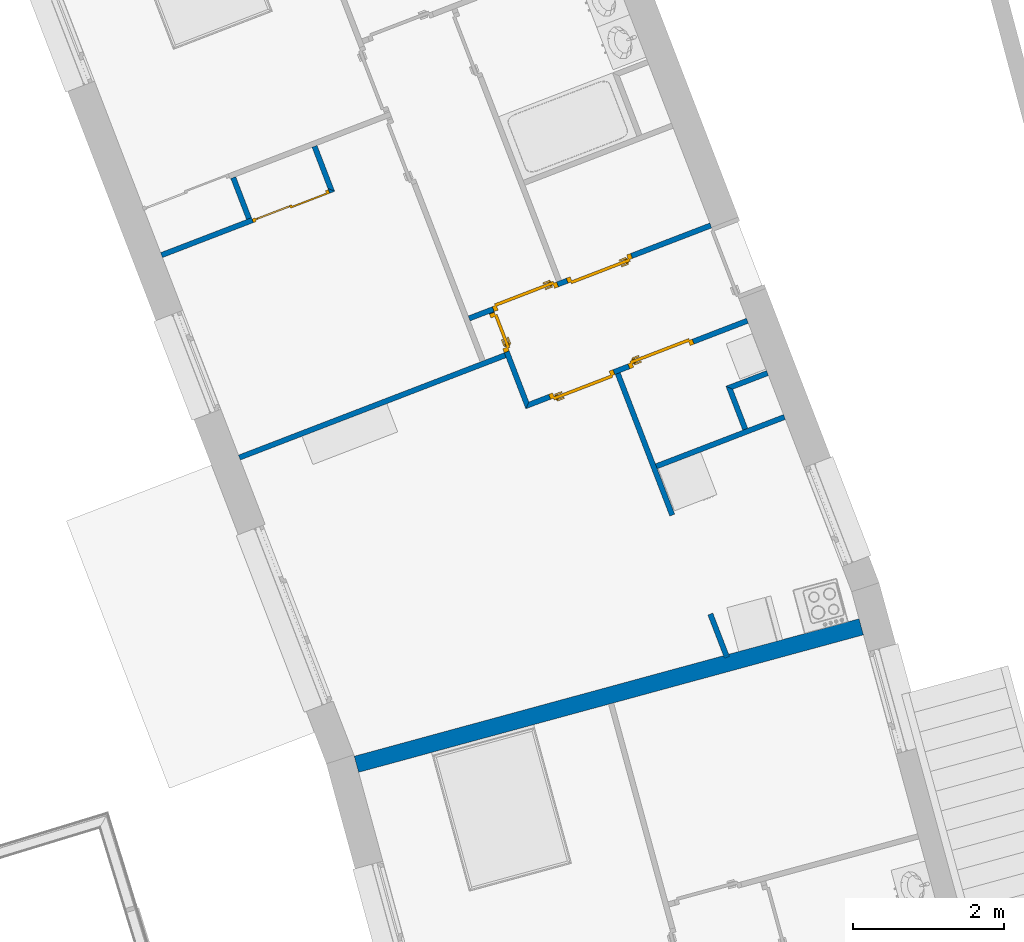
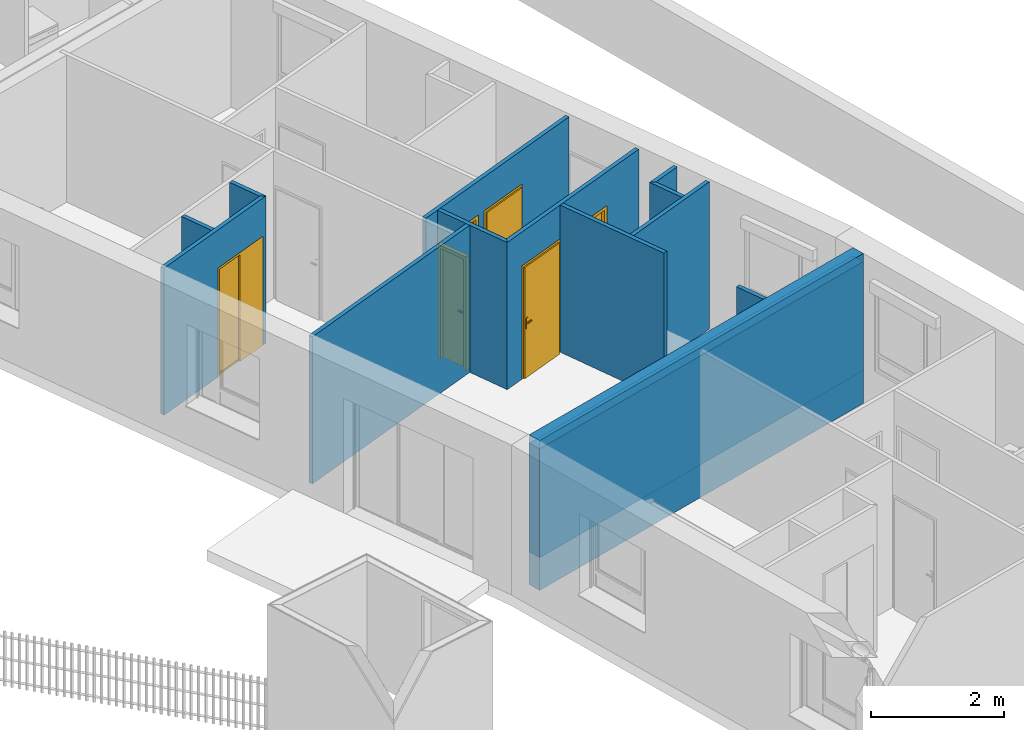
# One storey, part 76 of 195: 14 walls, 6 doors, 6 openings.
"""IFC2X3 building model written with IfcOpenShell, lengths in metres."""

from ifc_helpers import new_model, entity, si_unit, converted_unit, derived_unit, money_unit, direction, frame, origin_with_axes, origin_2d_with_axis, place, context, subcontext, project, spatial, polyline, rectangle, outline, extrude, open_shell, faceted_brep, surface_model, source, transform, mapped, material, layer, layer_set, layer_usage, type_object, element, fill, save


model = new_model("IFC2X3")

# Units and contexts
model_context = context("Model", 3, precision=1e-05, world=origin_with_axes(), true_north=direction((0.0, 1.0)))
body_context = subcontext(model_context, "Body", "Model", "MODEL_VIEW")
ifc_project = project(units=[si_unit("LENGTHUNIT", "METRE"), si_unit("AREAUNIT", "SQUARE_METRE"), si_unit("VOLUMEUNIT", "CUBIC_METRE"), converted_unit("PLANEANGLEUNIT", "DEGREE", entity("IfcPlaneAngleMeasure", 0.0174532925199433), si_unit("PLANEANGLEUNIT", "RADIAN"), dimensions=[0, 0, 0, 0, 0, 0, 0]), money_unit("CHF"), converted_unit("TIMEUNIT", "Year", entity("IfcTimeMeasure", 31557600.0), si_unit("TIMEUNIT", "SECOND"), dimensions=[0, 0, 1, 0, 0, 0, 0]), si_unit("MASSUNIT", "GRAM", prefix="KILO"), si_unit("THERMODYNAMICTEMPERATUREUNIT", "DEGREE_CELSIUS"), si_unit("LUMINOUSINTENSITYUNIT", "LUMEN"), si_unit("ENERGYUNIT", "JOULE", prefix="MEGA"), derived_unit("THERMALCONDUCTANCEUNIT", [(si_unit("POWERUNIT", "WATT"), 1), (si_unit("LENGTHUNIT", "METRE"), -1), (si_unit("THERMODYNAMICTEMPERATUREUNIT", "KELVIN"), -1)]), derived_unit("SPECIFICHEATCAPACITYUNIT", [(si_unit("ENERGYUNIT", "JOULE"), 1), (si_unit("MASSUNIT", "GRAM", prefix="KILO"), -1), (si_unit("THERMODYNAMICTEMPERATUREUNIT", "KELVIN"), -1)]), derived_unit("MASSDENSITYUNIT", [(si_unit("MASSUNIT", "GRAM", prefix="KILO"), 1), (si_unit("VOLUMEUNIT", "CUBIC_METRE"), -1)])], contexts=[model_context])

# Site, building, storey
site_placement = place(None, origin_with_axes())
site = spatial("IfcSite", under=ifc_project, at=site_placement, Name="Site", CompositionType="ELEMENT")
building_placement = place(site_placement, origin_with_axes())
building = spatial("IfcBuilding", under=site, at=building_placement, Name="Bâtiment", CompositionType="ELEMENT")
storey_placement = place(building_placement, origin_with_axes())
storey = spatial("IfcBuildingStorey", under=building, at=storey_placement, Name="rdc", CompositionType="ELEMENT", Elevation=0.0)

# Walls
ifc_material_1 = material(Name="Hachure solide 268963992")
ifc_layer_1 = layer(ifc_material_1, 0.07, ventilated="UNKNOWN")
ifc_layer_set_1 = layer_set([ifc_layer_1], Name="Cloison 70 0826278243")
ifc_layer_usage_1 = layer_usage(ifc_layer_set_1, "AXIS2", "POSITIVE", 0.0)
wall_type_1 = type_object("IfcWallType", Name="Cloison 70 0826278243 70", PredefinedType="NOTDEFINED")
wall_1_placement = place(storey_placement, frame((9588.726332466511, -1041.653551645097, 57.7), z_axis=(0.0, 0.0, 1.0), x_axis=(-0.9332788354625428, -0.3591526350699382, 0.0)))
element("IfcWallStandardCase", 1, at=wall_1_placement, inside=storey, type_object=wall_type_1, material=ifc_layer_usage_1, Name="Mur-149", context=body_context, shape_type="SweptSolid", body=[
    extrude(outline(polyline([(-3.088871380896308e-10, 0.0), (3.76118609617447, 0.0), (3.761186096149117, 0.06999999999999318), (-3.24803295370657e-10, 0.06999999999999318), (-3.088871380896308e-10, 0.0)])), origin_with_axes(), (0.0, 0.0, 1.0), 2.7),
])
ifc_layer_usage_2 = layer_usage(ifc_layer_set_1, "AXIS2", "NEGATIVE", 0.0)
wall_2_placement = place(storey_placement, frame((9585.347849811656, -1039.959595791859, 57.7), z_axis=(0.0, 0.0, 1.0), x_axis=(-0.3591526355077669, 0.9332788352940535, 0.0)))
element("IfcWallStandardCase", 2, at=wall_2_placement, inside=storey, type_object=wall_type_1, material=ifc_layer_usage_2, Name="Mur-149", context=body_context, shape_type="SweptSolid", body=[
    extrude(outline(polyline([(0.07000000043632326, -0.07000000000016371), (0.6499928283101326, -0.07000000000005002), (0.6499928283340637, 0.0), (0.07000000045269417, 0.0), (0.07000000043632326, -0.07000000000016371)])), origin_with_axes(), (0.0, 0.0, 1.0), 2.7),
])
ifc_layer_usage_3 = layer_usage(ifc_layer_set_1, "AXIS2", "NEGATIVE", 0.0)
wall_3_placement = place(storey_placement, frame((9586.421467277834, -1039.546436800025, 57.7), z_axis=(0.0, 0.0, 1.0), x_axis=(-0.3591526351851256, 0.9332788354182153, 0.0)))
element("IfcWallStandardCase", 3, at=wall_3_placement, inside=storey, type_object=wall_type_1, material=ifc_layer_usage_3, Name="Mur-149", context=body_context, shape_type="SweptSolid", body=[
    extrude(outline(polyline([(0.0, -0.07000000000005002), (0.6499928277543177, -0.07000000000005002), (0.6499928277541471, 0.0), (0.07000000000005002, 0.0), (0.0, -0.07000000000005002)])), origin_with_axes(), (0.0, 0.0, 1.0), 2.7),
])

# Wall, opening, door
ifc_layer_usage_4 = layer_usage(ifc_layer_set_1, "AXIS2", "NEGATIVE", 0.0)
wall_4_placement = place(storey_placement, frame((9586.421467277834, -1039.546436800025, 57.7), z_axis=(0.0, 0.0, 1.0), x_axis=(-0.9332788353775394, -0.3591526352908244, 0.0)))
wall_4 = element("IfcWallStandardCase", 4, at=wall_4_placement, inside=storey, type_object=wall_type_1, material=ifc_layer_usage_4, Name="Mur-149", context=body_context, shape_type="SweptSolid", body=[
    extrude(outline(polyline([(0.0, -0.07000000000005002), (2.366880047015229, -0.06999999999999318), (2.366880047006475, 0.0), (-0.06999999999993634, 0.0), (0.0, -0.07000000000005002)])), origin_with_axes(), (0.0, 0.0, 1.0), 2.7),
])
opening_1_placement = place(wall_4_placement, frame((0.5401857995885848, 0.0, 0.0), z_axis=(0.0, 0.0, 1.0), x_axis=(1.0, 0.0, 0.0)))
opening_1 = element("IfcOpeningElement", 5, at=opening_1_placement, cuts=wall_4, Name="Por-354", context=body_context, shape_type="SweptSolid", body=[
    extrude(rectangle(XDim=1.080371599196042, YDim=2.0, at=origin_2d_with_axis()), frame((0.0, 0.0, 1.0), z_axis=(0.0, -1.0, 0.0), x_axis=(1.0, 0.0, 0.0)), (0.0, 0.0, -1.0), 0.07),
    extrude(rectangle(XDim=1.080371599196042, YDim=2.0, at=origin_2d_with_axis()), frame((0.0, 0.0, 1.0), z_axis=(0.0, 1.0, 0.0), x_axis=(1.0, 0.0, 0.0)), (0.0, 0.0, -1.0), 0.07),
])
door_style_1 = type_object("IfcDoorStyle", ConstructionType="NOTDEFINED", OperationType="NOTDEFINED", ParameterTakesPrecedence=False, Sizeable=False)
shared_shape_1 = source(origin_with_axes(), body_context, "Body", "SurfaceModel", [
    faceted_brep([(-0.5401857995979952, 0.0, 0.0), (-0.5401857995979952, 0.0, 2.0), (0.5401857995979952, 0.0, 2.0), (0.5401857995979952, 0.0, 0.0), (0.5001857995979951, 0.0, 0.0), (0.5001857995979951, 0.0, 1.96), (-0.5001857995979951, 0.0, 1.96), (-0.5001857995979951, 0.0, 0.0), (-0.5401857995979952, -0.05, 0.0), (-0.5401857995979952, -0.05, 2.0), (0.5401857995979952, -0.05, 2.0), (0.5401857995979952, -0.05, 0.0), (0.5001857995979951, -0.05, 0.0), (0.5001857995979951, -0.04, 0.0), (0.5001857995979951, -0.04, 1.96), (-0.5001857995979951, -0.04, 1.96), (-0.5001857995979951, -0.04, 0.0), (-0.5001857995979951, -0.05, 0.0), (-0.5001857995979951, -0.05, 1.96), (0.5001857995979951, -0.05, 1.96)], [[[0, 1, 2, 3, 4, 5, 6, 7]], [[8, 9, 1, 0]], [[9, 10, 2, 1]], [[10, 11, 3, 2]], [[3, 11, 12, 13, 4]], [[5, 4, 13, 14]], [[6, 5, 14, 15]], [[7, 6, 15, 16]], [[0, 7, 16, 17, 8]], [[17, 18, 19, 12, 11, 10, 9, 8]], [[14, 13, 12, 19]], [[15, 14, 19, 18]], [[16, 15, 18, 17]]]),
    faceted_brep([(0.5001857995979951, -0.02, 0.0), (0.5001857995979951, -0.04, 0.0), (-0.01500000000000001, -0.04, 0.0), (-0.01500000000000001, -0.02, 0.0), (0.5001857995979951, -0.02, 1.96), (0.5001857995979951, -0.04, 1.96), (-0.01500000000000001, -0.04, 1.96), (0.4701857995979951, -0.04, 0.03), (0.01500000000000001, -0.04, 0.03), (0.01500000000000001, -0.04, 1.93), (0.4701857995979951, -0.04, 1.93), (-0.01500000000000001, -0.02, 1.96), (0.4701857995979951, -0.02, 0.03), (0.4701857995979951, -0.02, 1.93), (0.01500000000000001, -0.02, 1.93), (0.01500000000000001, -0.02, 0.03)], [[[0, 1, 2, 3]], [[4, 5, 1, 0]], [[1, 5, 6, 2], [7, 8, 9, 10]], [[3, 2, 6, 11]], [[0, 3, 11, 4], [12, 13, 14, 15]], [[11, 6, 5, 4]], [[15, 8, 7, 12]], [[14, 9, 8, 15]], [[13, 10, 9, 14]], [[12, 7, 10, 13]]]),
    surface_model("IfcShellBasedSurfaceModel", [(0.4701857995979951, -0.03, 0.03), (0.4701857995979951, -0.03, 1.93), (0.01499999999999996, -0.03, 1.93), (0.01499999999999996, -0.03, 0.03)], [open_shell([[[0, 1, 2, 3]]])]),
    faceted_brep([(0.01500000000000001, 0.0, 0.0), (0.01500000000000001, -0.02, 0.0), (-0.5001857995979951, -0.02, 0.0), (-0.5001857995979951, 0.0, 0.0), (0.01500000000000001, 0.0, 1.96), (0.01500000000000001, -0.02, 1.96), (-0.5001857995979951, -0.02, 1.96), (-0.5001857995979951, 0.0, 1.96)], [[[0, 1, 2, 3]], [[4, 5, 1, 0]], [[1, 5, 6, 2]], [[3, 2, 6, 7]], [[0, 3, 7, 4]], [[7, 6, 5, 4]]]),
])
door_1_placement = place(opening_1_placement, frame((-0.5401857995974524, 0.0, 0.0), z_axis=(0.0, 0.0, 1.0), x_axis=(1.0, 0.0, 0.0)))
door_1 = element("IfcDoor", 6, at=door_1_placement, inside=storey, type_object=door_style_1, Name="Por-354", OverallHeight=2.0, OverallWidth=1.08037, context=body_context, shape_type="MappedRepresentation", body=[
    mapped(shared_shape_1, transform((0.5401857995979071, 0.0, 0.0))),
])
fill(opening_1, door_1)

# Walls
ifc_layer_usage_5 = layer_usage(ifc_layer_set_1, "AXIS2", "NEGATIVE", 0.0)
wall_5_placement = place(storey_placement, frame((9591.876658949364, -1042.676088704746, 57.7), z_axis=(0.0, 0.0, 1.0), x_axis=(-0.3591526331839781, 0.9332788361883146, 0.0)))
element("IfcWallStandardCase", 7, at=wall_5_placement, inside=storey, type_object=wall_type_1, material=ifc_layer_usage_5, Name="Mur-149", context=body_context, shape_type="SweptSolid", body=[
    extrude(outline(polyline([(0.0, -0.07000000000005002), (0.5522261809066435, -0.07000000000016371), (0.6222241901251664, 0.0), (0.0, 0.0), (0.0, -0.07000000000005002)])), origin_with_axes(), (0.0, 0.0, 1.0), 2.7),
])
ifc_layer_usage_6 = layer_usage(ifc_layer_set_1, "AXIS2", "NEGATIVE", 0.0)
wall_6_placement = place(storey_placement, frame((9590.257939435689, -1041.914470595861, 57.7), z_axis=(0.0, 0.0, 1.0), x_axis=(0.3591526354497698, -0.9332788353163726, 0.0)))
element("IfcWallStandardCase", 8, at=wall_6_placement, inside=storey, type_object=wall_type_1, material=ifc_layer_usage_6, Name="Mur-149", context=body_context, shape_type="SweptSolid", body=[
    extrude(outline(polyline([(-9.5042196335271e-10, -0.07000000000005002), (2.003969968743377, -0.07000000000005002), (2.00396996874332, 0.0), (-9.37120603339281e-10, 0.0), (-9.5042196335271e-10, -0.07000000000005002)])), origin_with_axes(), (0.0, 0.0, 1.0), 2.7),
])

# Wall, openings, doors
ifc_layer_usage_7 = layer_usage(ifc_layer_set_1, "AXIS2", "NEGATIVE", 0.0)
wall_7_placement = place(storey_placement, frame((9591.82032224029, -1039.868313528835, 57.7), z_axis=(0.0, 0.0, 1.0), x_axis=(-0.9332788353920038, -0.3591526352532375, 0.0)))
wall_7 = element("IfcWallStandardCase", 9, at=wall_7_placement, inside=storey, type_object=wall_type_1, material=ifc_layer_usage_7, Name="Mur-149", context=body_context, shape_type="SweptSolid", body=[
    extrude(outline(polyline([(0.3799999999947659, -0.06999999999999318), (3.798731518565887, -0.07000000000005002), (3.798731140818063, 0.0), (0.3799999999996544, 0.0), (0.3799999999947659, -0.06999999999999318)])), origin_with_axes(), (0.0, 0.0, 1.0), 2.7),
])
opening_2_placement = place(wall_7_placement, frame((3.002364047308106, 0.0, 0.0), z_axis=(0.0, 0.0, 1.0), x_axis=(1.0, 0.0, 0.0)))
opening_2 = element("IfcOpeningElement", 10, at=opening_2_placement, cuts=wall_7, Name="Por-299", context=body_context, shape_type="SweptSolid", body=[
    extrude(rectangle(XDim=0.9099999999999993, YDim=2.079999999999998, at=origin_2d_with_axis()), frame((0.0, 0.07000000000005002, 1.039999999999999), z_axis=(0.0, 1.0, 0.0), x_axis=(1.0, 0.0, 0.0)), (0.0, 0.0, -1.0), 0.14),
])
opening_3_placement = place(wall_7_placement, frame((1.956216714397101, 0.0, 0.0), z_axis=(0.0, 0.0, 1.0), x_axis=(1.0, 0.0, 0.0)))
opening_3 = element("IfcOpeningElement", 11, at=opening_3_placement, cuts=wall_7, Name="Por-299", context=body_context, shape_type="SweptSolid", body=[
    extrude(rectangle(XDim=0.9099999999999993, YDim=2.079999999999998, at=origin_2d_with_axis()), frame((0.0, -0.07000000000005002, 1.039999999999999), z_axis=(0.0, 1.0, 0.0), x_axis=(1.0, 0.0, 0.0)), (0.0, 0.0, 1.0), 0.14),
])
door_style_2 = type_object("IfcDoorStyle", Name="Porte_1v", ConstructionType="NOTDEFINED", OperationType="NOTDEFINED", ParameterTakesPrecedence=False, Sizeable=False)
shared_shape_2 = source(origin_with_axes(), body_context, "Body", "Brep", [
    faceted_brep([(0.455, 0.0, 0.0), (0.415, 0.0, 0.0), (0.415, 0.0, 2.04), (-0.415, 0.0, 2.04), (-0.415, 0.0, 0.0), (-0.455, 0.0, 0.0), (-0.455, 0.0, 2.08), (0.455, 0.0, 2.08), (0.455, -0.07, 0.0), (0.4, -0.07, 0.0), (0.4, -0.015, 0.0), (0.415, -0.015, 0.0), (0.415, -0.015, 2.04), (-0.415, -0.015, 2.04), (-0.415, -0.015, 0.0), (-0.4, -0.015, 0.0), (-0.4, -0.07, 0.0), (-0.455, -0.07, 0.0), (-0.455, -0.07, 2.08), (0.455, -0.07, 2.08), (-0.4, -0.07, 2.025), (0.4, -0.07, 2.025), (0.4, -0.015, 2.025), (-0.4, -0.015, 2.025)], [[[0, 1, 2, 3, 4, 5, 6, 7]], [[0, 8, 9, 10, 11, 1]], [[1, 11, 12, 2]], [[2, 12, 13, 3]], [[3, 13, 14, 4]], [[5, 4, 14, 15, 16, 17]], [[18, 6, 5, 17]], [[19, 7, 6, 18]], [[8, 0, 7, 19]], [[9, 8, 19, 18, 17, 16, 20, 21]], [[10, 9, 21, 22]], [[11, 10, 22, 23, 15, 14, 13, 12]], [[23, 20, 16, 15]], [[22, 21, 20, 23]]]),
    faceted_brep([(-0.35, -0.015, 0.9), (-0.39, -0.015, 0.9), (-0.39, -0.015, 1.1), (-0.35, -0.015, 1.1), (-0.35, -0.025, 0.9), (-0.39, -0.025, 0.9), (-0.39, -0.025, 1.1), (-0.35, -0.025, 1.1)], [[[0, 1, 2, 3]], [[1, 0, 4, 5]], [[2, 1, 5, 6]], [[3, 2, 6, 7]], [[0, 3, 7, 4]], [[5, 4, 7, 6]]]),
    faceted_brep([(-0.28, -0.025, 1.0), (-0.38, -0.025, 1.0), (-0.38, -0.025, 1.02), (-0.28, -0.025, 1.02), (-0.28, -0.045, 1.0), (-0.38, -0.045, 1.0), (-0.38, -0.045, 1.02), (-0.28, -0.045, 1.02)], [[[0, 1, 2, 3]], [[1, 0, 4, 5]], [[2, 1, 5, 6]], [[3, 2, 6, 7]], [[0, 3, 7, 4]], [[5, 4, 7, 6]]]),
    faceted_brep([(-0.35, 0.035, 0.9), (-0.39, 0.035, 0.9), (-0.39, 0.035, 1.1), (-0.35, 0.035, 1.1), (-0.35, 0.025, 0.9), (-0.39, 0.025, 0.9), (-0.39, 0.025, 1.1), (-0.35, 0.025, 1.1)], [[[0, 1, 2, 3]], [[1, 0, 4, 5]], [[2, 1, 5, 6]], [[3, 2, 6, 7]], [[0, 3, 7, 4]], [[5, 4, 7, 6]]]),
    faceted_brep([(-0.28, 0.05500000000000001, 1.0), (-0.38, 0.05500000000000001, 1.0), (-0.38, 0.05500000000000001, 1.02), (-0.28, 0.05500000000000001, 1.02), (-0.28, 0.035, 1.0), (-0.38, 0.035, 1.0), (-0.38, 0.035, 1.02), (-0.28, 0.035, 1.02)], [[[0, 1, 2, 3]], [[1, 0, 4, 5]], [[2, 1, 5, 6]], [[3, 2, 6, 7]], [[0, 3, 7, 4]], [[5, 4, 7, 6]]]),
    faceted_brep([(-0.415, 0.025, 0.0), (0.415, 0.025, 0.0), (0.415, -0.015, 0.0), (-0.415, -0.015, 0.0), (-0.415, 0.025, 2.04), (0.415, 0.025, 2.04), (0.415, -0.015, 2.04), (-0.415, -0.015, 2.04)], [[[0, 1, 2, 3]], [[0, 4, 5, 1]], [[1, 5, 6, 2]], [[3, 2, 6, 7]], [[4, 0, 3, 7]], [[5, 4, 7, 6]]]),
])
door_2_placement = place(opening_3_placement, frame((-0.4150000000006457, 0.0, 0.0), z_axis=(0.0, 0.0, 1.0), x_axis=(1.0, 0.0, 0.0)))
door_2 = element("IfcDoor", 12, at=door_2_placement, inside=storey, type_object=door_style_2, Name="Por-299", OverallHeight=2.04, OverallWidth=0.83, context=body_context, shape_type="MappedRepresentation", body=[
    mapped(shared_shape_2, transform((0.4149999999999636, 0.0, 0.0))),
])
fill(opening_3, door_2)
shared_shape_3 = source(origin_with_axes(), body_context, "Body", "Brep", [
    faceted_brep([(-0.455, 0.0, 0.0), (-0.455, 0.0, 2.08), (0.455, 0.0, 2.08), (0.455, 0.0, 0.0), (0.415, 0.0, 0.0), (0.415, 0.0, 2.04), (-0.415, 0.0, 2.04), (-0.415, 0.0, 0.0), (-0.455, -0.07, 0.0), (-0.455, -0.07, 2.08), (0.455, -0.07, 2.08), (0.455, -0.07, 0.0), (0.4, -0.07, 0.0), (0.4, -0.015, 0.0), (0.415, -0.015, 0.0), (0.415, -0.015, 2.04), (-0.415, -0.015, 2.04), (-0.415, -0.015, 0.0), (-0.4, -0.015, 0.0), (-0.4, -0.07, 0.0), (-0.4, -0.07, 2.025), (0.4, -0.07, 2.025), (0.4, -0.015, 2.025), (-0.4, -0.015, 2.025)], [[[0, 1, 2, 3, 4, 5, 6, 7]], [[8, 9, 1, 0]], [[9, 10, 2, 1]], [[10, 11, 3, 2]], [[3, 11, 12, 13, 14, 4]], [[5, 4, 14, 15]], [[6, 5, 15, 16]], [[7, 6, 16, 17]], [[0, 7, 17, 18, 19, 8]], [[19, 20, 21, 12, 11, 10, 9, 8]], [[22, 13, 12, 21]], [[17, 16, 15, 14, 13, 22, 23, 18]], [[18, 23, 20, 19]], [[23, 22, 21, 20]]]),
    faceted_brep([(0.35, -0.015, 0.9), (0.35, -0.015, 1.1), (0.39, -0.015, 1.1), (0.39, -0.015, 0.9), (0.35, -0.025, 0.9), (0.35, -0.025, 1.1), (0.39, -0.025, 1.1), (0.39, -0.025, 0.9)], [[[0, 1, 2, 3]], [[0, 4, 5, 1]], [[1, 5, 6, 2]], [[2, 6, 7, 3]], [[3, 7, 4, 0]], [[7, 6, 5, 4]]]),
    faceted_brep([(0.28, -0.025, 1.0), (0.28, -0.025, 1.02), (0.38, -0.025, 1.02), (0.38, -0.025, 1.0), (0.28, -0.045, 1.0), (0.28, -0.045, 1.02), (0.38, -0.045, 1.02), (0.38, -0.045, 1.0)], [[[0, 1, 2, 3]], [[0, 4, 5, 1]], [[1, 5, 6, 2]], [[2, 6, 7, 3]], [[3, 7, 4, 0]], [[7, 6, 5, 4]]]),
    faceted_brep([(0.35, 0.035, 0.9), (0.35, 0.035, 1.1), (0.39, 0.035, 1.1), (0.39, 0.035, 0.9), (0.35, 0.025, 0.9), (0.35, 0.025, 1.1), (0.39, 0.025, 1.1), (0.39, 0.025, 0.9)], [[[0, 1, 2, 3]], [[0, 4, 5, 1]], [[1, 5, 6, 2]], [[2, 6, 7, 3]], [[3, 7, 4, 0]], [[7, 6, 5, 4]]]),
    faceted_brep([(0.28, 0.05500000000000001, 1.0), (0.28, 0.05500000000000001, 1.02), (0.38, 0.05500000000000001, 1.02), (0.38, 0.05500000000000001, 1.0), (0.28, 0.035, 1.0), (0.28, 0.035, 1.02), (0.38, 0.035, 1.02), (0.38, 0.035, 1.0)], [[[0, 1, 2, 3]], [[0, 4, 5, 1]], [[1, 5, 6, 2]], [[2, 6, 7, 3]], [[3, 7, 4, 0]], [[7, 6, 5, 4]]]),
    faceted_brep([(0.415, 0.025, 0.0), (0.415, -0.015, 0.0), (-0.415, -0.015, 0.0), (-0.415, 0.025, 0.0), (0.415, 0.025, 2.04), (0.415, -0.015, 2.04), (-0.415, -0.015, 2.04), (-0.415, 0.025, 2.04)], [[[0, 1, 2, 3]], [[4, 5, 1, 0]], [[1, 5, 6, 2]], [[3, 2, 6, 7]], [[0, 3, 7, 4]], [[7, 6, 5, 4]]]),
])
door_3_placement = place(opening_2_placement, frame((0.4149999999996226, 0.0, 0.0), z_axis=(0.0, 0.0, 1.0), x_axis=(-1.0, 0.0, 0.0)))
door_3 = element("IfcDoor", 13, at=door_3_placement, inside=storey, type_object=door_style_2, Name="Por-299", OverallHeight=2.04, OverallWidth=0.83, context=body_context, shape_type="MappedRepresentation", body=[
    mapped(shared_shape_3, transform((0.4150000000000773, 0.06999999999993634, 0.0))),
])
fill(opening_2, door_3)

ifc_layer_usage_8 = layer_usage(ifc_layer_set_1, "AXIS2", "POSITIVE", 0.0)
wall_8_placement = place(storey_placement, frame((9589.01135269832, -1042.394193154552, 57.7), z_axis=(0.0, 0.0, 1.0), x_axis=(0.9332788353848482, 0.3591526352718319, 0.0)))
wall_8 = element("IfcWallStandardCase", 14, at=wall_8_placement, inside=storey, type_object=wall_type_1, material=ifc_layer_usage_8, Name="Mur-149", context=body_context, shape_type="SweptSolid", body=[
    extrude(outline(polyline([(2.247588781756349e-10, 0.0), (3.148728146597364, 0.0), (3.148728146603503, 0.06999999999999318), (0.07000000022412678, 0.07000000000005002), (2.247588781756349e-10, 0.0)])), origin_with_axes(), (0.0, 0.0, 1.0), 2.7),
])
opening_4_placement = place(wall_8_placement, frame((1.926126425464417, 0.0, 0.0), z_axis=(0.0, 0.0, 1.0), x_axis=(1.0, 0.0, 0.0)))
opening_4 = element("IfcOpeningElement", 15, at=opening_4_placement, cuts=wall_8, Name="Por-299", context=body_context, shape_type="SweptSolid", body=[
    extrude(rectangle(XDim=0.9099999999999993, YDim=2.079999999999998, at=origin_2d_with_axis()), frame((0.0, -0.07000000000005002, 1.039999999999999), z_axis=(0.0, 1.0, 0.0), x_axis=(1.0, 0.0, 0.0)), (0.0, 0.0, 1.0), 0.14),
])
opening_5_placement = place(wall_8_placement, frame((0.8050034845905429, 0.0, 0.0), z_axis=(0.0, 0.0, 1.0), x_axis=(1.0, 0.0, 0.0)))
opening_5 = element("IfcOpeningElement", 16, at=opening_5_placement, cuts=wall_8, Name="Por-299", context=body_context, shape_type="SweptSolid", body=[
    extrude(rectangle(XDim=0.9099999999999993, YDim=2.079999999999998, at=origin_2d_with_axis()), frame((0.0, 0.06999999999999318, 1.039999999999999), z_axis=(0.0, 1.0, 0.0), x_axis=(1.0, 0.0, 0.0)), (0.0, 0.0, -1.0), 0.14),
])
door_4_placement = place(opening_4_placement, frame((-0.4150000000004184, 0.0, 0.0), z_axis=(0.0, 0.0, 1.0), x_axis=(1.0, 0.0, 0.0)))
door_4 = element("IfcDoor", 17, at=door_4_placement, inside=storey, type_object=door_style_2, Name="Por-299", OverallHeight=2.04, OverallWidth=0.83, context=body_context, shape_type="MappedRepresentation", body=[
    mapped(shared_shape_2, transform((0.4149999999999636, 0.07000000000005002, 0.0))),
])
fill(opening_4, door_4)
door_5_placement = place(opening_5_placement, frame((0.4149999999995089, 0.0, 0.0), z_axis=(0.0, 0.0, 1.0), x_axis=(-1.0, 0.0, 0.0)))
door_5 = element("IfcDoor", 18, at=door_5_placement, inside=storey, type_object=door_style_2, Name="Por-299", OverallHeight=2.04, OverallWidth=0.83, context=body_context, shape_type="MappedRepresentation", body=[
    mapped(shared_shape_3, transform((0.4150000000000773, 0.0, 0.0))),
])
fill(opening_5, door_5)

# Wall
ifc_layer_usage_9 = layer_usage(ifc_layer_set_1, "AXIS2", "POSITIVE", 0.0)
wall_9_placement = place(storey_placement, frame((9590.747166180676, -1043.185754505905, 57.7), z_axis=(0.0, 0.0, 1.0), x_axis=(0.9332788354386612, 0.3591526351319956, 0.0)))
element("IfcWallStandardCase", 19, at=wall_9_placement, inside=storey, type_object=wall_type_1, material=ifc_layer_usage_9, Name="Mur-149", context=body_context, shape_type="SweptSolid", body=[
    extrude(outline(polyline([(0.0, 0.0), (1.813021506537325, 0.0), (1.813021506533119, 0.06999999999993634), (0.0, 0.06999999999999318), (0.0, 0.0)])), origin_with_axes(), (0.0, 0.0, 1.0), 2.7),
])

# Wall, opening, door
ifc_layer_usage_10 = layer_usage(ifc_layer_set_1, "AXIS2", "NEGATIVE", 0.0)
wall_10_placement = place(storey_placement, frame((9589.011352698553, -1042.394193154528, 57.7), z_axis=(0.0, 0.0, 1.0), x_axis=(-0.3591526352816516, 0.9332788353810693, 0.0)))
wall_10 = element("IfcWallStandardCase", 20, at=wall_10_placement, inside=storey, type_object=wall_type_1, material=ifc_layer_usage_10, Name="Mur-149", context=body_context, shape_type="SweptSolid", body=[
    extrude(outline(polyline([(0.07000000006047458, -0.06999999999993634), (1.348501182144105, -0.06999999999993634), (1.348501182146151, 0.0), (0.0, 0.0), (0.07000000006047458, -0.06999999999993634)])), origin_with_axes(), (0.0, 0.0, 1.0), 2.7),
])
opening_6_placement = place(wall_10_placement, frame((1.067283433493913, 0.0, 0.0), z_axis=(0.0, 0.0, 1.0), x_axis=(1.0, 0.0, 0.0)))
opening_6 = element("IfcOpeningElement", 21, at=opening_6_placement, cuts=wall_10, Name="Por-320", context=body_context, shape_type="SweptSolid", body=[
    extrude(rectangle(XDim=0.547405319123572, YDim=2.079999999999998, at=origin_2d_with_axis()), frame((-2.722629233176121e-09, 0.07000000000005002, 1.039999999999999), z_axis=(0.0, 1.0, 0.0), x_axis=(1.0, 0.0, 0.0)), (0.0, 0.0, -1.0), 0.14),
])
shared_shape_4 = source(origin_with_axes(), body_context, "Body", "Brep", [
    faceted_brep([(-0.2737026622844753, 0.0, 0.0), (-0.2737026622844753, 0.0, 2.08), (0.2737026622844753, 0.0, 2.08), (0.2737026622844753, 0.0, 0.0), (0.2337026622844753, 0.0, 0.0), (0.2337026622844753, 0.0, 2.04), (-0.2337026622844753, 0.0, 2.04), (-0.2337026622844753, 0.0, 0.0), (-0.2737026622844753, -0.07, 0.0), (-0.2737026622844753, -0.07, 2.08), (0.2737026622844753, -0.07, 2.08), (0.2737026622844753, -0.07, 0.0), (0.2187026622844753, -0.07, 0.0), (0.2187026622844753, -0.015, 0.0), (0.2337026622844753, -0.015, 0.0), (0.2337026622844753, -0.015, 2.04), (-0.2337026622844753, -0.015, 2.04), (-0.2337026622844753, -0.015, 0.0), (-0.2187026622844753, -0.015, 0.0), (-0.2187026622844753, -0.07, 0.0), (-0.2187026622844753, -0.07, 2.025), (0.2187026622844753, -0.07, 2.025), (0.2187026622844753, -0.015, 2.025), (-0.2187026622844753, -0.015, 2.025)], [[[0, 1, 2, 3, 4, 5, 6, 7]], [[8, 9, 1, 0]], [[9, 10, 2, 1]], [[10, 11, 3, 2]], [[3, 11, 12, 13, 14, 4]], [[5, 4, 14, 15]], [[6, 5, 15, 16]], [[7, 6, 16, 17]], [[0, 7, 17, 18, 19, 8]], [[19, 20, 21, 12, 11, 10, 9, 8]], [[22, 13, 12, 21]], [[17, 16, 15, 14, 13, 22, 23, 18]], [[18, 23, 20, 19]], [[23, 22, 21, 20]]]),
    faceted_brep([(0.1687026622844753, -0.015, 0.9), (0.1687026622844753, -0.015, 1.1), (0.2087026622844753, -0.015, 1.1), (0.2087026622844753, -0.015, 0.9), (0.1687026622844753, -0.025, 0.9), (0.1687026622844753, -0.025, 1.1), (0.2087026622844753, -0.025, 1.1), (0.2087026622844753, -0.025, 0.9)], [[[0, 1, 2, 3]], [[0, 4, 5, 1]], [[1, 5, 6, 2]], [[2, 6, 7, 3]], [[3, 7, 4, 0]], [[7, 6, 5, 4]]]),
    faceted_brep([(0.0987026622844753, -0.025, 1.0), (0.0987026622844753, -0.025, 1.02), (0.1987026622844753, -0.025, 1.02), (0.1987026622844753, -0.025, 1.0), (0.0987026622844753, -0.045, 1.0), (0.0987026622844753, -0.045, 1.02), (0.1987026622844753, -0.045, 1.02), (0.1987026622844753, -0.045, 1.0)], [[[0, 1, 2, 3]], [[0, 4, 5, 1]], [[1, 5, 6, 2]], [[2, 6, 7, 3]], [[3, 7, 4, 0]], [[7, 6, 5, 4]]]),
    faceted_brep([(0.1687026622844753, 0.035, 0.9), (0.1687026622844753, 0.035, 1.1), (0.2087026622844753, 0.035, 1.1), (0.2087026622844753, 0.035, 0.9), (0.1687026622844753, 0.025, 0.9), (0.1687026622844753, 0.025, 1.1), (0.2087026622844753, 0.025, 1.1), (0.2087026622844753, 0.025, 0.9)], [[[0, 1, 2, 3]], [[0, 4, 5, 1]], [[1, 5, 6, 2]], [[2, 6, 7, 3]], [[3, 7, 4, 0]], [[7, 6, 5, 4]]]),
    faceted_brep([(0.0987026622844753, 0.05500000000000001, 1.0), (0.0987026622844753, 0.05500000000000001, 1.02), (0.1987026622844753, 0.05500000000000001, 1.02), (0.1987026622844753, 0.05500000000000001, 1.0), (0.0987026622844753, 0.035, 1.0), (0.0987026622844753, 0.035, 1.02), (0.1987026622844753, 0.035, 1.02), (0.1987026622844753, 0.035, 1.0)], [[[0, 1, 2, 3]], [[0, 4, 5, 1]], [[1, 5, 6, 2]], [[2, 6, 7, 3]], [[3, 7, 4, 0]], [[7, 6, 5, 4]]]),
    faceted_brep([(0.2337026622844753, 0.025, 0.0), (0.2337026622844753, -0.015, 0.0), (-0.2337026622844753, -0.015, 0.0), (-0.2337026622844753, 0.025, 0.0), (0.2337026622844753, 0.025, 2.04), (0.2337026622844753, -0.015, 2.04), (-0.2337026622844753, -0.015, 2.04), (-0.2337026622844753, 0.025, 2.04)], [[[0, 1, 2, 3]], [[4, 5, 1, 0]], [[1, 5, 6, 2]], [[3, 2, 6, 7]], [[0, 3, 7, 4]], [[7, 6, 5, 4]]]),
])
door_6_placement = place(opening_6_placement, frame((0.2337026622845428, 0.0, 0.0), z_axis=(0.0, 0.0, 1.0), x_axis=(-1.0, 0.0, 0.0)))
door_6 = element("IfcDoor", 22, at=door_6_placement, inside=storey, type_object=door_style_2, Name="Por-320", OverallHeight=2.04, OverallWidth=0.467405, context=body_context, shape_type="MappedRepresentation", body=[
    mapped(shared_shape_4, transform((0.233702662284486, 0.07000000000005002, 0.0))),
])
fill(opening_6, door_6)

# Walls
ifc_layer_usage_11 = layer_usage(ifc_layer_set_1, "AXIS2", "POSITIVE", 0.0)
wall_11_placement = place(storey_placement, frame((9591.678326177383, -1042.160709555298, 57.7), z_axis=(0.0, 0.0, 1.0), x_axis=(0.9332686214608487, 0.359179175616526, 0.0)))
element("IfcWallStandardCase", 23, at=wall_11_placement, inside=storey, type_object=wall_type_1, material=ifc_layer_usage_11, Name="Mur-149", context=body_context, shape_type="SweptSolid", body=[
    extrude(outline(polyline([(0.07000000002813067, 0.0), (0.5758419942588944, 0.0), (0.575843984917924, 0.06999999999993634), (1.990809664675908e-06, 0.06999999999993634), (0.07000000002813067, 0.0)])), origin_with_axes(), (0.0, 0.0, 1.0), 2.7),
])
ifc_layer_usage_12 = layer_usage(ifc_layer_set_1, "AXIS2", "NEGATIVE", 0.0)
wall_12_placement = place(storey_placement, frame((9591.48065605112, -1045.091884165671, 57.7), z_axis=(0.0, 0.0, 1.0), x_axis=(0.3591526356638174, -0.9332788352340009, 0.0)))
element("IfcWallStandardCase", 24, at=wall_12_placement, inside=storey, type_object=wall_type_1, material=ifc_layer_usage_12, Name="Mur-149", context=body_context, shape_type="SweptSolid", body=[
    extrude(outline(polyline([(0.0, -0.06999999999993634), (0.6120429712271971, -0.06999999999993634), (0.6120429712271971, 0.0), (0.0, 0.0), (0.0, -0.06999999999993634)])), origin_with_axes(), (0.0, 0.0, 1.0), 2.7),
])
ifc_material_2 = material(Name="Parpaing 312445824")
ifc_layer_2 = layer(ifc_material_2, 0.22, ventilated="UNKNOWN")
ifc_layer_set_2 = layer_set([ifc_layer_2], Name="Beton  22 0836643198")
ifc_layer_usage_13 = layer_usage(ifc_layer_set_2, "AXIS2", "POSITIVE", 0.0)
wall_type_2 = type_object("IfcWallType", Name="Beton  22 0836643198 220", PredefinedType="NOTDEFINED")
wall_13_placement = place(storey_placement, frame((9593.778565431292, -1045.066843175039, 57.7), z_axis=(0.0, 0.0, 1.0), x_axis=(-0.9648682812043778, -0.2627340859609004, 0.0)))
element("IfcWallStandardCase", 25, at=wall_13_placement, inside=storey, type_object=wall_type_2, material=ifc_layer_usage_13, Name="Mur-105", context=body_context, shape_type="SweptSolid", body=[
    extrude(outline(polyline([(0.3800000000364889, 0.0), (7.289914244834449, 0.0), (7.289914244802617, 0.2199999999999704), (0.3800000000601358, 0.2199999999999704), (0.3800000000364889, 0.0)])), origin_with_axes(), (0.0, 0.0, 1.0), 2.749999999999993),
])
ifc_layer_usage_14 = layer_usage(ifc_layer_set_2, "AXIS2", "NEGATIVE", 0.0)
wall_14_placement = place(storey_placement, frame((9593.83636693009, -1045.279114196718, 58.3), z_axis=(0.0, 0.0, 1.0), x_axis=(-0.9648682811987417, -0.2627340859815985, 0.0)))
element("IfcWallStandardCase", 26, at=wall_14_placement, inside=storey, type_object=wall_type_2, material=ifc_layer_usage_14, Name="Mur-105", context=body_context, shape_type="SweptSolid", body=[
    extrude(outline(polyline([(0.3799999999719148, -0.2199999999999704), (7.289914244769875, -0.2199999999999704), (7.289914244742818, 0.0), (0.3800000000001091, 0.0), (0.3799999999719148, -0.2199999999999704)])), origin_with_axes(), (0.0, 0.0, 1.0), 2.0),
])

save(model, "model.ifc")
